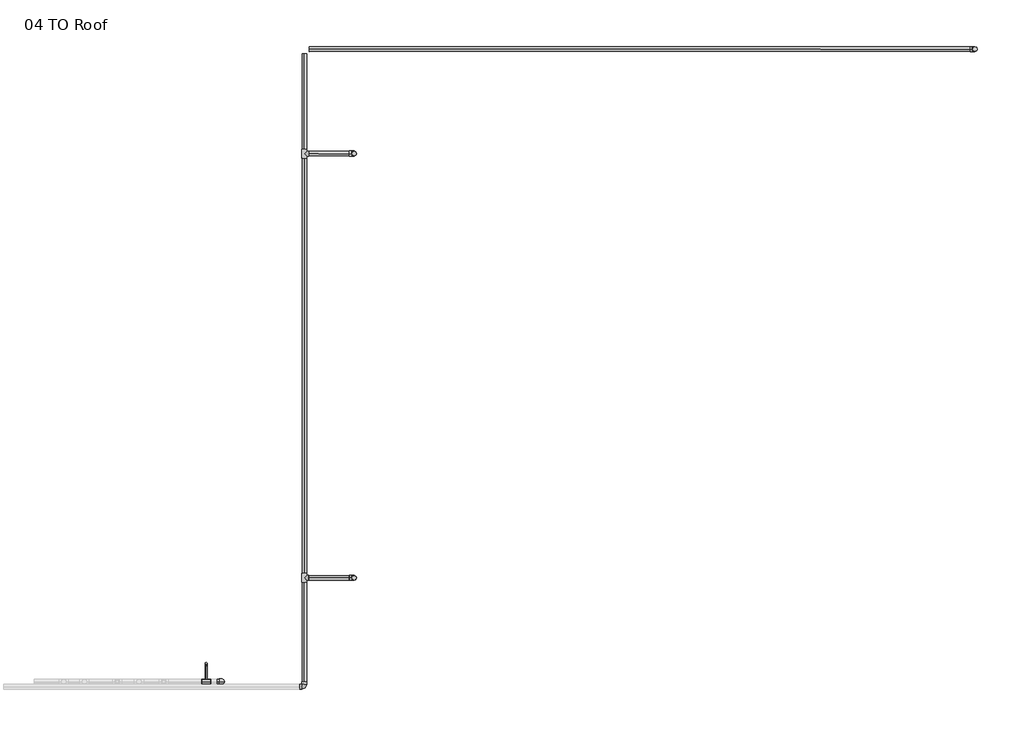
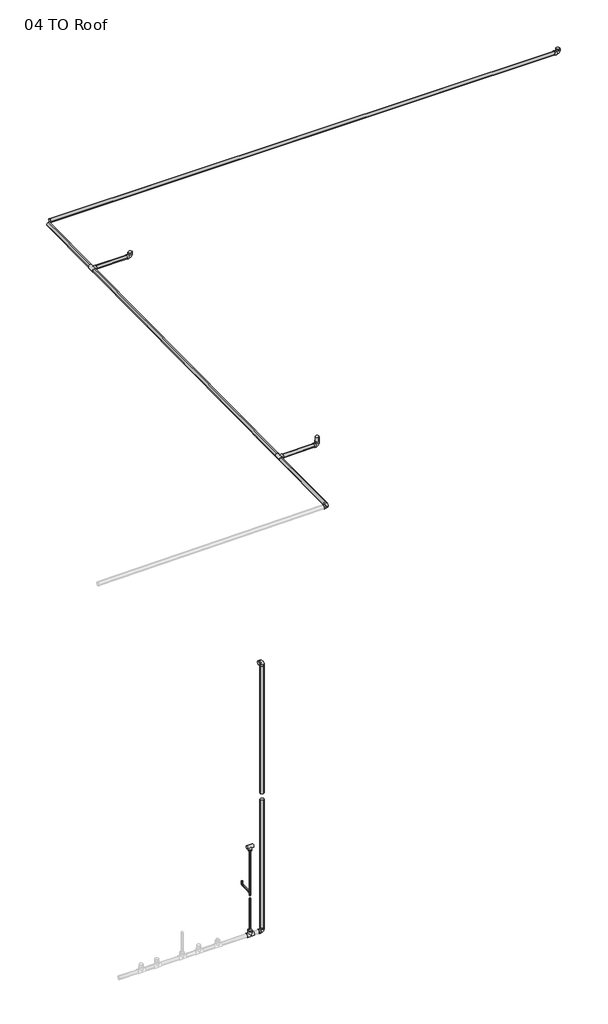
# One storey, part 2 of 2: 16 pipe segments, 14 pipe fittings.
"""IFC4 building model written with IfcOpenShell, lengths in millimetres."""

from ifc_helpers import new_model, si_unit, point, frame, frame_2d, origin, place, context, project, spatial, circle_curve, trimmed, segment, composite_curve, outline, extrude, transform, mapped, element, save
from components import elbow_pvc_sch_40_standard_f9cb6bb1, elbow_pvc_sch_40_standard_84c736bd, elbow_pvc_sch_40_standard_d32303a6, elbow_pvc_sch_40_standard_2ea8bc13, elbow_pvc_sch_40_standard_1e4faa0e, reducer_pvc_sch_40_dwv_standard_9c0d98a8, reducer_pvc_sch_40_dwv_standard_cf29b970, tee_pvc_sch_40_standard_fd0a187c, tee_pvc_sch_40_standard_5c3f4d2b, tee_pvc_sch_40_standard_9c13fb8e, tee_pvc_sch_40_standard_9261842d, tee_pvc_sch_40_standard_216bb700

model = new_model("IFC4")

# Units and contexts
model_context = context("Model", 3, world=origin())
ifc_project = project(units=[si_unit("LENGTHUNIT", "METRE", prefix="MILLI")], contexts=[model_context])

# Site, building, storey
site = spatial("IfcSite", under=ifc_project)
building = spatial("IfcBuilding", under=site)
storey = spatial("IfcBuildingStorey", under=building, Name="04 TO Roof", Elevation=13716.0)

# Pipe fittings
placement = place(None, origin())
elbow_pvc_sch_40_standard_shape = elbow_pvc_sch_40_standard_f9cb6bb1(model_context)
element("IfcPipeFitting", 1, ObjectType="Elbow - PVC - Sch 40 : Standard", at=placement, inside=storey, context=model_context, shape_type="MappedRepresentation", body=[
    mapped(elbow_pvc_sch_40_standard_shape, transform((-8996.1852278, -1894.3713307, 13024.6235463), x_axis=(0.9999457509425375, 0.0, 0.010416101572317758), y_axis=(-0.010416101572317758, 0.0, 0.9999457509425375), z_axis=(0.0, -1.0, 0.0))),
])
elbow_pvc_sch_40_standard_2_shape = elbow_pvc_sch_40_standard_84c736bd(model_context)
element("IfcPipeFitting", 2, ObjectType="Elbow - PVC - Sch 40 : Standard", at=placement, inside=storey, context=model_context, shape_type="MappedRepresentation", body=[
    mapped(elbow_pvc_sch_40_standard_2_shape, transform((-10219.1403709, -4567.1253665, 12984.0432423), x_axis=(0.9999457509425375, 0.0, 0.010416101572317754), y_axis=(-0.0001084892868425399, 0.9999457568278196, 0.010414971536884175), z_axis=(-0.010415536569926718, -0.010415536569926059, 0.999891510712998))),
])
elbow_pvc_sch_40_standard_3_shape = elbow_pvc_sch_40_standard_d32303a6(model_context)
element("IfcPipeFitting", 3, ObjectType="Elbow - PVC - Sch 40 : Standard", at=placement, inside=storey, context=model_context, shape_type="MappedRepresentation", body=[
    mapped(elbow_pvc_sch_40_standard_3_shape, transform((-12241.2148778, -4439.7857603, -832.1193487), x_axis=(1.0, 0.0, 0.0), y_axis=(0.0, 0.0, 1.0), z_axis=(0.0, -1.0, 0.0))),
])
element("IfcPipeFitting", 4, ObjectType="Elbow - PVC - Sch 40 : Standard", at=placement, inside=storey, context=model_context, shape_type="MappedRepresentation", body=[
    mapped(elbow_pvc_sch_40_standard_3_shape, transform((-8996.2067943, 8522.8841045, 13120.3357568), x_axis=(0.0, 0.0, -1.0), y_axis=(-0.9999882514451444, -0.00484736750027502, 0.0), z_axis=(-0.00484736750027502, 0.9999882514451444, 0.0))),
])
element("IfcPipeFitting", 5, ObjectType="Elbow - PVC - Sch 40 : Standard", at=placement, inside=storey, context=model_context, shape_type="MappedRepresentation", body=[
    mapped(elbow_pvc_sch_40_standard_3_shape, transform((-12241.2148778, -4439.7857603, 8311.8806513), x_axis=(0.0, 0.0, 1.0), y_axis=(-1.0, 0.0, 0.0), z_axis=(0.0, -1.0, 0.0))),
])
elbow_pvc_sch_40_standard_4_shape = elbow_pvc_sch_40_standard_2ea8bc13(model_context)
element("IfcPipeFitting", 6, ObjectType="Elbow - PVC - Sch 40 : Standard", at=placement, inside=storey, context=model_context, shape_type="MappedRepresentation", body=[
    mapped(elbow_pvc_sch_40_standard_4_shape, transform((-12628.3542617, -3991.9703325, 604.4703954), x_axis=(0.0, 0.9999457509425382, 0.010416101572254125), y_axis=(0.0, -0.010416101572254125, 0.9999457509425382), z_axis=(1.0, 0.0, 0.0))),
])
elbow_pvc_sch_40_standard_5_shape = elbow_pvc_sch_40_standard_1e4faa0e(model_context)
element("IfcPipeFitting", 7, ObjectType="Elbow - PVC - Sch 40 : Standard", at=placement, inside=storey, context=model_context, shape_type="MappedRepresentation", body=[
    mapped(elbow_pvc_sch_40_standard_5_shape, transform((6243.8426104, 11086.5163798, 13165.0399715), x_axis=(0.0, 0.0, -1.0), y_axis=(-0.9999999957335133, -9.237409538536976e-05, 0.0), z_axis=(-9.237409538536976e-05, 0.9999999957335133, 0.0))),
])
reducer_pvc_sch_40_dwv_standard_shape = reducer_pvc_sch_40_dwv_standard_9c0d98a8(model_context)
element("IfcPipeFitting", 8, ObjectType="Reducer - PVC - Sch 40 - DWV : Standard", at=placement, inside=storey, context=model_context, shape_type="MappedRepresentation", body=[
    mapped(reducer_pvc_sch_40_dwv_standard_shape, transform((-12628.3542617, -4439.7857603, -720.9943487), x_axis=(0.0, 0.0, 1.0), y_axis=(1.0, 0.0, 0.0), z_axis=(0.0, 1.0, 0.0))),
])
reducer_pvc_sch_40_dwv_standard_2_shape = reducer_pvc_sch_40_dwv_standard_cf29b970(model_context)
element("IfcPipeFitting", 9, ObjectType="Reducer - PVC - Sch 40 - DWV : Standard", at=placement, inside=storey, context=model_context, shape_type="MappedRepresentation", body=[
    mapped(reducer_pvc_sch_40_dwv_standard_2_shape, transform((-12628.3542617, -4439.7857603, 2066.925), x_axis=(0.0, 0.0, -1.0), y_axis=(0.0, -1.0, 0.0), z_axis=(-1.0, 0.0, 0.0))),
])
tee_pvc_sch_40_standard_shape = tee_pvc_sch_40_standard_fd0a187c(model_context)
element("IfcPipeFitting", 10, ObjectType="Tee - PVC - Sch 40 : Standard", at=placement, inside=storey, context=model_context, shape_type="MappedRepresentation", body=[
    mapped(tee_pvc_sch_40_standard_shape, transform((-10219.1403709, -1894.3713307, 13011.8844302), x_axis=(0.0, 0.9999457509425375, 0.010416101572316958), y_axis=(-0.9999457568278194, 0.00010848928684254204, -0.010414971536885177), z_axis=(-0.010415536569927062, -0.010415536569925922, 0.9998915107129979))),
])
tee_pvc_sch_40_standard_2_shape = tee_pvc_sch_40_standard_5c3f4d2b(model_context)
element("IfcPipeFitting", 11, ObjectType="Tee - PVC - Sch 40 : Standard", at=placement, inside=storey, context=model_context, shape_type="MappedRepresentation", body=[
    mapped(tee_pvc_sch_40_standard_2_shape, transform((-12628.3542617, -4439.7857603, -832.1193487), x_axis=(-1.0, 0.0, 0.0), y_axis=(0.0, 0.0, -1.0), z_axis=(0.0, -1.0, 0.0))),
])
tee_pvc_sch_40_standard_3_shape = tee_pvc_sch_40_standard_9c13fb8e(model_context)
element("IfcPipeFitting", 12, ObjectType="Tee - PVC - Sch 40 : Standard", at=placement, inside=storey, context=model_context, shape_type="MappedRepresentation", body=[
    mapped(tee_pvc_sch_40_standard_3_shape, transform((-12628.3542617, -4439.7857603, 599.8056513), x_axis=(0.0, 0.0, 1.0), y_axis=(0.0, -1.0, 0.0), z_axis=(1.0, 0.0, 0.0))),
])
tee_pvc_sch_40_standard_4_shape = tee_pvc_sch_40_standard_9261842d(model_context)
element("IfcPipeFitting", 13, ObjectType="Tee - PVC - Sch 40 : Standard", at=placement, inside=storey, context=model_context, shape_type="MappedRepresentation", body=[
    mapped(tee_pvc_sch_40_standard_4_shape, transform((-12628.3542617, -4439.7857603, 2163.7752), x_axis=(-1.0, 0.0, 0.0), y_axis=(0.0, 0.0, 1.0), z_axis=(0.0, 1.0, 0.0))),
])
tee_pvc_sch_40_standard_5_shape = tee_pvc_sch_40_standard_216bb700(model_context)
element("IfcPipeFitting", 14, ObjectType="Tee - PVC - Sch 40 : Standard", at=placement, inside=storey, context=model_context, shape_type="MappedRepresentation", body=[
    mapped(tee_pvc_sch_40_standard_5_shape, transform((-10219.1403709, 8516.9560264, 13120.3357568), x_axis=(0.0, 0.9999457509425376, 0.010416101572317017), y_axis=(-0.9999999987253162, -5.25922148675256e-07, 5.0488526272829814e-05), z_axis=(5.049126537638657e-05, -0.010416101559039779, 0.9999457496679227))),
])

# Pipe segments
element("IfcPipeSegment", 15, ObjectType="Standard", at=placement, inside=storey, context=model_context, shape_type="SweptSolid", body=[
    extrude(outline(composite_curve([segment(trimmed(circle_curve(frame_2d((0.0, -57.15)), 57.15), [point((-57.15, -57.15))], [point((0.0, 0.0))], False, "CARTESIAN"), True, "CONTINUOUS"), segment(trimmed(circle_curve(frame_2d((0.0, -57.15)), 57.15), [point((0.0, 0.0))], [point((57.15, -57.15))], False, "CARTESIAN"), True, "CONTINUOUS"), segment(trimmed(circle_curve(frame_2d((0.0, -57.15)), 57.15), [point((57.15, -57.15))], [point((0.0, -114.3000001))], False, "CARTESIAN"), True, "CONTINUOUS"), segment(trimmed(circle_curve(frame_2d((0.0, -57.15)), 57.15), [point((0.0, -114.3000001))], [point((-57.15, -57.15))], False, "CARTESIAN"), True, "CONTINUOUS")], self_intersect=False)), frame((-10219.1403709, -4449.8494417, 12928.111766), z_axis=(0.0, 0.9999457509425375, 0.010416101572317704), x_axis=(1.0, 0.0, 0.0)), (0.0, 0.0, 1.0), 2445.0870633),
])
element("IfcPipeSegment", 16, ObjectType="Standard", at=placement, inside=storey, context=model_context, shape_type="SweptSolid", body=[
    extrude(outline(composite_curve([segment(trimmed(circle_curve(frame_2d((0.0, 57.15)), 57.15), [point((57.1499999, 57.15))], [point((0.0, 0.0))], False, "CARTESIAN"), True, "CONTINUOUS"), segment(trimmed(circle_curve(frame_2d((0.0, 57.15)), 57.15), [point((0.0, 0.0))], [point((-57.15, 57.15))], False, "CARTESIAN"), True, "CONTINUOUS"), segment(trimmed(circle_curve(frame_2d((0.0, 57.15)), 57.15), [point((-57.15, 57.15))], [point((0.0, 114.3))], False, "CARTESIAN"), True, "CONTINUOUS"), segment(trimmed(circle_curve(frame_2d((0.0, 57.15)), 57.15), [point((0.0, 114.3))], [point((57.1499999, 57.15))], False, "CARTESIAN"), True, "CONTINUOUS")], self_intersect=False)), frame((-10108.0166764, 8517.4946901, 13177.4857568), z_axis=(0.9999882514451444, 0.004847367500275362, 0.0), x_axis=(0.004847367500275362, -0.9999882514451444, 0.0)), (0.0, 0.0, 1.0), 995.1289944),
])
element("IfcPipeSegment", 17, ObjectType="Standard", at=placement, inside=storey, context=model_context, shape_type="SweptSolid", body=[
    extrude(outline(composite_curve([segment(trimmed(circle_curve(frame_2d((0.0, 57.15)), 57.15), [point((0.0, 0.0))], [point((-57.15, 57.15))], False, "CARTESIAN"), True, "CONTINUOUS"), segment(trimmed(circle_curve(frame_2d((0.0, 57.15)), 57.15), [point((-57.15, 57.15))], [point((0.0, 114.3))], False, "CARTESIAN"), True, "CONTINUOUS"), segment(trimmed(circle_curve(frame_2d((0.0, 57.15)), 57.15), [point((0.0, 114.3))], [point((57.15, 57.15))], False, "CARTESIAN"), True, "CONTINUOUS"), segment(trimmed(circle_curve(frame_2d((0.0, 57.15)), 57.15), [point((57.15, 57.15))], [point((0.0, 0.0))], False, "CARTESIAN"), True, "CONTINUOUS")], self_intersect=False)), frame((-10108.0213993, -1951.5213307, 13013.0419195), z_axis=(0.9999457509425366, 0.0, 0.010416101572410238), x_axis=(0.010416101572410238, 0.0, -0.9999457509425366)), (0.0, 0.0, 1.0), 995.8687794),
])
element("IfcPipeSegment", 18, ObjectType="Standard", at=placement, inside=storey, context=model_context, shape_type="SweptSolid", body=[
    extrude(outline(composite_curve([segment(trimmed(circle_curve(frame_2d((-8996.1852278, -1894.3713307)), 57.15), [point((-9053.3352278, -1894.3713307))], [point((-8996.1852278, -1837.2213307))], False, "CARTESIAN"), True, "CONTINUOUS"), segment(trimmed(circle_curve(frame_2d((-8996.1852278, -1894.3713307)), 57.15), [point((-8996.1852278, -1837.2213307))], [point((-8939.0352278, -1894.3713307))], False, "CARTESIAN"), True, "CONTINUOUS"), segment(trimmed(circle_curve(frame_2d((-8996.1852278, -1894.3713307)), 57.15), [point((-8939.0352278, -1894.3713307))], [point((-8996.1852278, -1951.5213307))], False, "CARTESIAN"), True, "CONTINUOUS"), segment(trimmed(circle_curve(frame_2d((-8996.1852278, -1894.3713307)), 57.15), [point((-8996.1852278, -1951.5213307))], [point((-9053.3352278, -1894.3713307))], False, "CARTESIAN"), True, "CONTINUOUS")], self_intersect=False)), frame((0.0, 0.0, 13140.6512578), z_axis=(0.0, 0.0, 1.0), x_axis=(1.0, 0.0, 0.0)), (0.0, 0.0, 1.0), 148.6511302),
])
element("IfcPipeSegment", 19, ObjectType="Standard", at=placement, inside=storey, context=model_context, shape_type="SweptSolid", body=[
    extrude(outline(composite_curve([segment(trimmed(circle_curve(frame_2d((-12628.3542617, -4439.7857603)), 21.034375), [point((-12649.3886367, -4439.7857603))], [point((-12628.3542617, -4418.7513853))], False, "CARTESIAN"), True, "CONTINUOUS"), segment(trimmed(circle_curve(frame_2d((-12628.3542617, -4439.7857603)), 21.034375), [point((-12628.3542617, -4418.7513853))], [point((-12607.3198867, -4439.7857603))], False, "CARTESIAN"), True, "CONTINUOUS"), segment(trimmed(circle_curve(frame_2d((-12628.3542617, -4439.7857603)), 21.034375), [point((-12607.3198867, -4439.7857603))], [point((-12628.3542617, -4460.8201353))], False, "CARTESIAN"), True, "CONTINUOUS"), segment(trimmed(circle_curve(frame_2d((-12628.3542617, -4439.7857603)), 21.034375), [point((-12628.3542617, -4460.8201353))], [point((-12649.3886367, -4439.7857603))], False, "CARTESIAN"), True, "CONTINUOUS")], self_intersect=False)), frame((0.0, 0.0, 501.65), z_axis=(0.0, 0.0, 1.0), x_axis=(1.0, 0.0, 0.0)), (0.0, 0.0, 1.0), 44.1806513),
])
element("IfcPipeSegment", 20, ObjectType="Standard", at=placement, inside=storey, context=model_context, shape_type="SweptSolid", body=[
    extrude(outline(composite_curve([segment(trimmed(circle_curve(frame_2d((0.0, 21.034375)), 21.034375), [point((21.034375, 21.034375))], [point((0.0, 0.0))], False, "CARTESIAN"), True, "CONTINUOUS"), segment(trimmed(circle_curve(frame_2d((0.0, 21.034375)), 21.034375), [point((0.0, 0.0))], [point((-21.034375, 21.034375))], False, "CARTESIAN"), True, "CONTINUOUS"), segment(trimmed(circle_curve(frame_2d((0.0, 21.034375)), 21.034375), [point((-21.034375, 21.034375))], [point((0.0, 42.06875))], False, "CARTESIAN"), True, "CONTINUOUS"), segment(trimmed(circle_curve(frame_2d((0.0, 21.034375)), 21.034375), [point((0.0, 42.06875))], [point((21.034375, 21.034375))], False, "CARTESIAN"), True, "CONTINUOUS")], self_intersect=False)), frame((-12628.3542617, -4386.0327846, 621.4010943), z_axis=(0.0, 0.9999457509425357, 0.010416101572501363), x_axis=(1.0, 0.0, 0.0)), (0.0, 0.0, 1.0), 336.1924031),
])
element("IfcPipeSegment", 21, ObjectType="Standard", at=placement, inside=storey, context=model_context, shape_type="SweptSolid", body=[
    extrude(outline(composite_curve([segment(trimmed(circle_curve(frame_2d((-12628.3542617, -3991.9703325)), 21.034375), [point((-12607.3198867, -3991.9703325))], [point((-12628.3542617, -4013.0047075))], False, "CARTESIAN"), True, "CONTINUOUS"), segment(trimmed(circle_curve(frame_2d((-12628.3542617, -3991.9703325)), 21.034375), [point((-12628.3542617, -4013.0047075))], [point((-12649.3886367, -3991.9703325))], False, "CARTESIAN"), True, "CONTINUOUS"), segment(trimmed(circle_curve(frame_2d((-12628.3542617, -3991.9703325)), 21.034375), [point((-12649.3886367, -3991.9703325))], [point((-12628.3542617, -3970.9359575))], False, "CARTESIAN"), True, "CONTINUOUS"), segment(trimmed(circle_curve(frame_2d((-12628.3542617, -3991.9703325)), 21.034375), [point((-12628.3542617, -3970.9359575))], [point((-12607.3198867, -3991.9703325))], False, "CARTESIAN"), True, "CONTINUOUS")], self_intersect=False)), frame((0.0, 0.0, 662.1427149), z_axis=(0.0, 0.0, 1.0), x_axis=(1.0, 0.0, 0.0)), (0.0, 0.0, 1.0), 49.0572851),
])
element("IfcPipeSegment", 22, ObjectType="Standard", at=placement, inside=storey, context=model_context, shape_type="SweptSolid", body=[
    extrude(outline(composite_curve([segment(trimmed(circle_curve(frame_2d((-12628.3542617, -4439.7857603)), 21.034375), [point((-12649.3886367, -4439.7857603))], [point((-12628.3542617, -4418.7513853))], False, "CARTESIAN"), True, "CONTINUOUS"), segment(trimmed(circle_curve(frame_2d((-12628.3542617, -4439.7857603)), 21.034375), [point((-12628.3542617, -4418.7513853))], [point((-12607.3198867, -4439.7857603))], False, "CARTESIAN"), True, "CONTINUOUS"), segment(trimmed(circle_curve(frame_2d((-12628.3542617, -4439.7857603)), 21.034375), [point((-12607.3198867, -4439.7857603))], [point((-12628.3542617, -4460.8201353))], False, "CARTESIAN"), True, "CONTINUOUS"), segment(trimmed(circle_curve(frame_2d((-12628.3542617, -4439.7857603)), 21.034375), [point((-12628.3542617, -4460.8201353))], [point((-12649.3886367, -4439.7857603))], False, "CARTESIAN"), True, "CONTINUOUS")], self_intersect=False)), frame((0.0, 0.0, -619.8507549), z_axis=(0.0, 0.0, 1.0), x_axis=(1.0, 0.0, 0.0)), (0.0, 0.0, 1.0), 1013.5507549),
])
element("IfcPipeSegment", 23, ObjectType="Standard", at=placement, inside=storey, context=model_context, shape_type="SweptSolid", body=[
    extrude(outline(composite_curve([segment(trimmed(circle_curve(frame_2d((-12628.3542617, -4439.7857603)), 21.034375), [point((-12607.3198867, -4439.7857603))], [point((-12628.3542617, -4460.8201353))], False, "CARTESIAN"), True, "CONTINUOUS"), segment(trimmed(circle_curve(frame_2d((-12628.3542617, -4439.7857603)), 21.034375), [point((-12628.3542617, -4460.8201353))], [point((-12649.3886367, -4439.7857603))], False, "CARTESIAN"), True, "CONTINUOUS"), segment(trimmed(circle_curve(frame_2d((-12628.3542617, -4439.7857603)), 21.034375), [point((-12649.3886367, -4439.7857603))], [point((-12628.3542617, -4418.7513853))], False, "CARTESIAN"), True, "CONTINUOUS"), segment(trimmed(circle_curve(frame_2d((-12628.3542617, -4439.7857603)), 21.034375), [point((-12628.3542617, -4418.7513853))], [point((-12607.3198867, -4439.7857603))], False, "CARTESIAN"), True, "CONTINUOUS")], self_intersect=False)), frame((0.0, 0.0, 653.7806513), z_axis=(0.0, 0.0, 1.0), x_axis=(1.0, 0.0, 0.0)), (0.0, 0.0, 1.0), 1336.1307549),
])
element("IfcPipeSegment", 24, ObjectType="Standard", at=placement, inside=storey, context=model_context, shape_type="SweptSolid", body=[
    extrude(outline(composite_curve([segment(trimmed(circle_curve(frame_2d((-12241.2148778, -4439.7857603)), 57.15), [point((-12298.3648778, -4439.7857603))], [point((-12241.2148778, -4382.6357603))], False, "CARTESIAN"), True, "CONTINUOUS"), segment(trimmed(circle_curve(frame_2d((-12241.2148778, -4439.7857603)), 57.15), [point((-12241.2148778, -4382.6357603))], [point((-12184.0648778, -4439.7857603))], False, "CARTESIAN"), True, "CONTINUOUS"), segment(trimmed(circle_curve(frame_2d((-12241.2148778, -4439.7857603)), 57.15), [point((-12184.0648778, -4439.7857603))], [point((-12241.2148778, -4496.9357603))], False, "CARTESIAN"), True, "CONTINUOUS"), segment(trimmed(circle_curve(frame_2d((-12241.2148778, -4439.7857603)), 57.15), [point((-12241.2148778, -4496.9357603))], [point((-12298.3648778, -4439.7857603))], False, "CARTESIAN"), True, "CONTINUOUS")], self_intersect=False)), frame((0.0, 0.0, -715.4253987), z_axis=(0.0, 0.0, 1.0), x_axis=(1.0, 0.0, 0.0)), (0.0, 0.0, 1.0), 4344.18105),
])
element("IfcPipeSegment", 25, ObjectType="Standard", at=placement, inside=storey, context=model_context, shape_type="SweptSolid", body=[
    extrude(outline(composite_curve([segment(trimmed(circle_curve(frame_2d((-12241.2148778, -4439.7857603)), 57.15), [point((-12298.3648778, -4439.7857603))], [point((-12241.2148778, -4382.6357603))], False, "CARTESIAN"), True, "CONTINUOUS"), segment(trimmed(circle_curve(frame_2d((-12241.2148778, -4439.7857603)), 57.15), [point((-12241.2148778, -4382.6357603))], [point((-12184.0648778, -4439.7857603))], False, "CARTESIAN"), True, "CONTINUOUS"), segment(trimmed(circle_curve(frame_2d((-12241.2148778, -4439.7857603)), 57.15), [point((-12184.0648778, -4439.7857603))], [point((-12241.2148778, -4496.9357603))], False, "CARTESIAN"), True, "CONTINUOUS"), segment(trimmed(circle_curve(frame_2d((-12241.2148778, -4439.7857603)), 57.15), [point((-12241.2148778, -4496.9357603))], [point((-12298.3648778, -4439.7857603))], False, "CARTESIAN"), True, "CONTINUOUS")], self_intersect=False)), frame((0.0, 0.0, 3851.0056513), z_axis=(0.0, 0.0, 1.0), x_axis=(1.0, 0.0, 0.0)), (0.0, 0.0, 1.0), 4344.18105),
])
element("IfcPipeSegment", 26, ObjectType="Standard", at=placement, inside=storey, context=model_context, shape_type="SweptSolid", body=[
    extrude(outline(composite_curve([segment(trimmed(circle_curve(frame_2d((-8996.2067943, 8522.8841045)), 57.15), [point((-8939.0567943, 8522.8841045))], [point((-8996.2067943, 8465.7341045))], False, "CARTESIAN"), True, "CONTINUOUS"), segment(trimmed(circle_curve(frame_2d((-8996.2067943, 8522.8841045)), 57.15), [point((-8996.2067943, 8465.7341045))], [point((-9053.3567943, 8522.8841045))], False, "CARTESIAN"), True, "CONTINUOUS"), segment(trimmed(circle_curve(frame_2d((-8996.2067943, 8522.8841045)), 57.15), [point((-9053.3567943, 8522.8841045))], [point((-8996.2067943, 8580.0341045))], False, "CARTESIAN"), True, "CONTINUOUS"), segment(trimmed(circle_curve(frame_2d((-8996.2067943, 8522.8841045)), 57.15), [point((-8996.2067943, 8580.0341045))], [point((-8939.0567943, 8522.8841045))], False, "CARTESIAN"), True, "CONTINUOUS")], self_intersect=False)), frame((0.0, 0.0, 13237.0297068), z_axis=(0.0, 0.0, 1.0), x_axis=(1.0, 0.0, 0.0)), (0.0, 0.0, 1.0), 12.8287178),
])
element("IfcPipeSegment", 27, ObjectType="Standard", at=placement, inside=storey, context=model_context, shape_type="SweptSolid", body=[
    extrude(outline(composite_curve([segment(trimmed(circle_curve(frame_2d((0.0, -57.15)), 57.15), [point((-57.15, -57.15))], [point((0.0, 0.0))], False, "CARTESIAN"), True, "CONTINUOUS"), segment(trimmed(circle_curve(frame_2d((0.0, -57.15)), 57.15), [point((0.0, 0.0))], [point((57.15, -57.15))], False, "CARTESIAN"), True, "CONTINUOUS"), segment(trimmed(circle_curve(frame_2d((0.0, -57.15)), 57.15), [point((57.15, -57.15))], [point((0.0, -114.3000001))], False, "CARTESIAN"), True, "CONTINUOUS"), segment(trimmed(circle_curve(frame_2d((0.0, -57.15)), 57.15), [point((0.0, -114.3000001))], [point((-57.15, -57.15))], False, "CARTESIAN"), True, "CONTINUOUS")], self_intersect=False)), frame((-10219.1403709, -1782.6570789, 12955.8950198), z_axis=(0.0, 0.9999457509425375, 0.010416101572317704), x_axis=(1.0, 0.0, 0.0)), (0.0, 0.0, 1.0), 10189.6421924),
])
element("IfcPipeSegment", 28, ObjectType="Standard", at=placement, inside=storey, context=model_context, shape_type="SweptSolid", body=[
    extrude(outline(composite_curve([segment(trimmed(circle_curve(frame_2d((0.0, -57.1499999)), 57.15), [point((-57.15, -57.1499999))], [point((0.0, 0.0))], False, "CARTESIAN"), True, "CONTINUOUS"), segment(trimmed(circle_curve(frame_2d((0.0, -57.1499999)), 57.15), [point((0.0, 0.0))], [point((57.15, -57.1499999))], False, "CARTESIAN"), True, "CONTINUOUS"), segment(trimmed(circle_curve(frame_2d((0.0, -57.1499999)), 57.15), [point((57.15, -57.1499999))], [point((0.0, -114.3))], False, "CARTESIAN"), True, "CONTINUOUS"), segment(trimmed(circle_curve(frame_2d((0.0, -57.1499999)), 57.15), [point((0.0, -114.3))], [point((-57.15, -57.1499999))], False, "CARTESIAN"), True, "CONTINUOUS")], self_intersect=False)), frame((-10219.1403709, 8628.6702782, 13064.3463465), z_axis=(0.0, 0.9999457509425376, 0.010416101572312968), x_axis=(1.0, 0.0, 0.0)), (0.0, 0.0, 1.0), 2340.3777256),
])
element("IfcPipeSegment", 29, ObjectType="Standard", at=placement, inside=storey, context=model_context, shape_type="SweptSolid", body=[
    extrude(outline(composite_curve([segment(trimmed(circle_curve(frame_2d((6243.8426104, 11086.5163798)), 57.15), [point((6300.9926104, 11086.5163798))], [point((6243.8426104, 11029.3663798))], False, "CARTESIAN"), True, "CONTINUOUS"), segment(trimmed(circle_curve(frame_2d((6243.8426104, 11086.5163798)), 57.15), [point((6243.8426104, 11029.3663798))], [point((6186.6926104, 11086.5163798))], False, "CARTESIAN"), True, "CONTINUOUS"), segment(trimmed(circle_curve(frame_2d((6243.8426104, 11086.5163798)), 57.15), [point((6186.6926104, 11086.5163798))], [point((6243.8426104, 11143.6663798))], False, "CARTESIAN"), True, "CONTINUOUS"), segment(trimmed(circle_curve(frame_2d((6243.8426104, 11086.5163798)), 57.15), [point((6243.8426104, 11143.6663798))], [point((6300.9926104, 11086.5163798))], False, "CARTESIAN"), True, "CONTINUOUS")], self_intersect=False)), frame((0.0, 0.0, 13281.6681198), z_axis=(0.0, 0.0, 1.0), x_axis=(1.0, 0.0, 0.0)), (0.0, 0.0, 1.0), 7.6342681),
])
element("IfcPipeSegment", 30, ObjectType="Standard", at=placement, inside=storey, context=model_context, shape_type="SweptSolid", body=[
    extrude(outline(composite_curve([segment(trimmed(circle_curve(frame_2d((0.0, 57.15)), 57.15), [point((-57.1499999, 57.1499946))], [point((-5.4e-06, 114.2999999))], False, "CARTESIAN"), True, "CONTINUOUS"), segment(trimmed(circle_curve(frame_2d((0.0, 57.15)), 57.15), [point((-5.4e-06, 114.2999999))], [point((57.15, 57.1500054))], False, "CARTESIAN"), True, "CONTINUOUS"), segment(trimmed(circle_curve(frame_2d((0.0, 57.15)), 57.15), [point((57.15, 57.1500054))], [point((5.4e-06, 0.0))], False, "CARTESIAN"), True, "CONTINUOUS"), segment(trimmed(circle_curve(frame_2d((0.0, 57.15)), 57.15), [point((5.4e-06, 0.0))], [point((-57.1499999, 57.1499946))], False, "CARTESIAN"), True, "CONTINUOUS")], self_intersect=False)), frame((-10102.4012059, 11085.0064049, 13091.151735), z_axis=(0.9999994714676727, 9.237404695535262e-05, 0.0010239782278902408), x_axis=(-9.237399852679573e-05, 0.9999999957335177, -9.458901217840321e-08)), (0.0, 0.0, 1.0), 16229.6828279),
])

save(model, "model.ifc")
